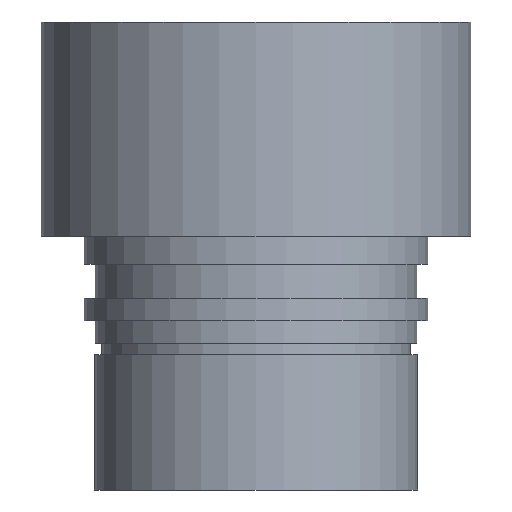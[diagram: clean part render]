
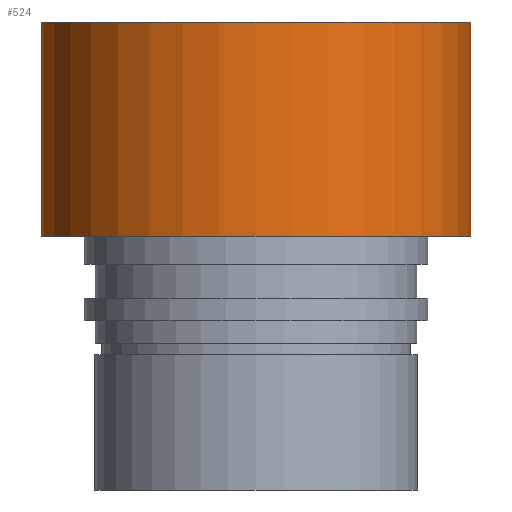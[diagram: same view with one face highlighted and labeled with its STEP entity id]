
A CAD part, front view. The second image highlights one B-rep face of the part: STEP entity #524.
In plain terms, the highlighted cylindrical face has radius 19.05 mm (diameter 38.1 mm), a full revolution.
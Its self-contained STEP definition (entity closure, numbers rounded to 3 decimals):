
#79 = CYLINDRICAL_SURFACE ( 'NONE', #80, 19.05 ) ;
#80 = AXIS2_PLACEMENT_3D ( 'NONE', #514, #513, #512 ) ;
#84 = FACE_OUTER_BOUND ( 'NONE', #276, .T. ) ;
#86 = FACE_OUTER_BOUND ( 'NONE', #264, .T. ) ;
#137 = AXIS2_PLACEMENT_3D ( 'NONE', #420, #419, #418 ) ;
#151 = AXIS2_PLACEMENT_3D ( 'NONE', #438, #446, #449 ) ;
#199 = EDGE_CURVE ( 'NONE', #484, #484, #533, .T. ) ;
#214 = EDGE_CURVE ( 'NONE', #352, #352, #546, .T. ) ;
#264 = EDGE_LOOP ( 'NONE', ( #271 ) ) ;
#271 = ORIENTED_EDGE ( 'NONE', *, *, #214, .F. ) ;
#276 = EDGE_LOOP ( 'NONE', ( #296 ) ) ;
#296 = ORIENTED_EDGE ( 'NONE', *, *, #199, .T. ) ;
#351 = CARTESIAN_POINT ( 'NONE',  ( 19.05, 0., -19. ) ) ;
#352 = VERTEX_POINT ( 'NONE', #351 ) ;
#418 = DIRECTION ( 'NONE',  ( 1., 0., 0. ) ) ;
#419 = DIRECTION ( 'NONE',  ( 0., 0., -1. ) ) ;
#420 = CARTESIAN_POINT ( 'NONE',  ( 0., 0., -19. ) ) ;
#438 = CARTESIAN_POINT ( 'NONE',  ( 0., 0., 0. ) ) ;
#446 = DIRECTION ( 'NONE',  ( 0., 0., -1. ) ) ;
#449 = DIRECTION ( 'NONE',  ( 1., 0., 0. ) ) ;
#483 = CARTESIAN_POINT ( 'NONE',  ( 19.05, 0., 0. ) ) ;
#484 = VERTEX_POINT ( 'NONE', #483 ) ;
#512 = DIRECTION ( 'NONE',  ( 1., 0., 0. ) ) ;
#513 = DIRECTION ( 'NONE',  ( 0., 0., 1. ) ) ;
#514 = CARTESIAN_POINT ( 'NONE',  ( 0., 0., -19. ) ) ;
#524 = ADVANCED_FACE ( 'NONE', ( #84, #86 ), #79, .T. ) ;
#533 = CIRCLE ( 'NONE', #151, 19.05 ) ;
#546 = CIRCLE ( 'NONE', #137, 19.05 ) ;
